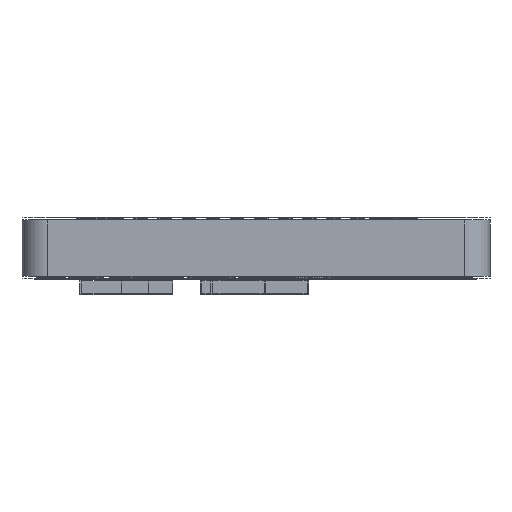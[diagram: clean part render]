
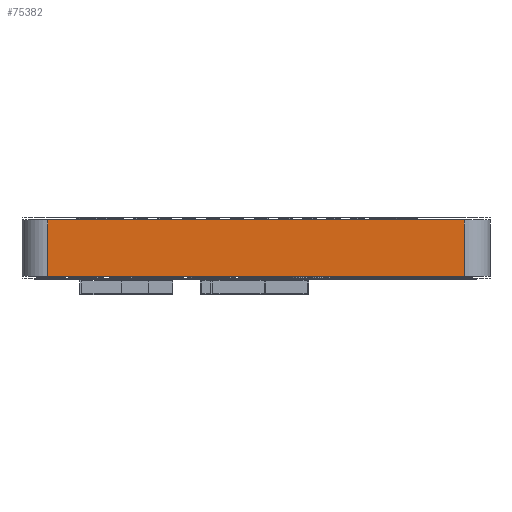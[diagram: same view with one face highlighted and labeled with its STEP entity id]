
A CAD part, left-side view. The second image highlights one B-rep face of the part: STEP entity #75382.
In plain terms, the highlighted planar face has unit normal (-1, 0, 0).
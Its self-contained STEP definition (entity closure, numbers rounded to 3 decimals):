
#72897 = VERTEX_POINT('',#72898);
#72898 = CARTESIAN_POINT('',(132.751,-98.954,0.));
#72905 = EDGE_CURVE('',#72906,#72897,#72908,.T.);
#72906 = VERTEX_POINT('',#72907);
#72907 = CARTESIAN_POINT('',(132.751,-111.054,0.));
#72908 = LINE('',#72909,#72910);
#72909 = CARTESIAN_POINT('',(132.751,-111.054,0.));
#72910 = VECTOR('',#72911,1.);
#72911 = DIRECTION('',(0.,1.,0.));
#74126 = VERTEX_POINT('',#74127);
#74127 = CARTESIAN_POINT('',(132.751,-98.954,1.633));
#74134 = EDGE_CURVE('',#74135,#74126,#74137,.T.);
#74135 = VERTEX_POINT('',#74136);
#74136 = CARTESIAN_POINT('',(132.751,-111.054,1.633));
#74137 = LINE('',#74138,#74139);
#74138 = CARTESIAN_POINT('',(132.751,-111.054,1.633));
#74139 = VECTOR('',#74140,1.);
#74140 = DIRECTION('',(0.,1.,0.));
#75352 = EDGE_CURVE('',#72897,#74126,#75353,.T.);
#75353 = LINE('',#75354,#75355);
#75354 = CARTESIAN_POINT('',(132.751,-98.954,0.));
#75355 = VECTOR('',#75356,1.);
#75356 = DIRECTION('',(0.,0.,1.));
#75382 = ADVANCED_FACE('',(#75383),#75394,.T.);
#75383 = FACE_BOUND('',#75384,.T.);
#75384 = EDGE_LOOP('',(#75385,#75391,#75392,#75393));
#75385 = ORIENTED_EDGE('',*,*,#75386,.T.);
#75386 = EDGE_CURVE('',#72906,#74135,#75387,.T.);
#75387 = LINE('',#75388,#75389);
#75388 = CARTESIAN_POINT('',(132.751,-111.054,0.));
#75389 = VECTOR('',#75390,1.);
#75390 = DIRECTION('',(0.,0.,1.));
#75391 = ORIENTED_EDGE('',*,*,#74134,.T.);
#75392 = ORIENTED_EDGE('',*,*,#75352,.F.);
#75393 = ORIENTED_EDGE('',*,*,#72905,.F.);
#75394 = PLANE('',#75395);
#75395 = AXIS2_PLACEMENT_3D('',#75396,#75397,#75398);
#75396 = CARTESIAN_POINT('',(132.751,-111.054,0.));
#75397 = DIRECTION('',(-1.,0.,0.));
#75398 = DIRECTION('',(0.,1.,0.));
